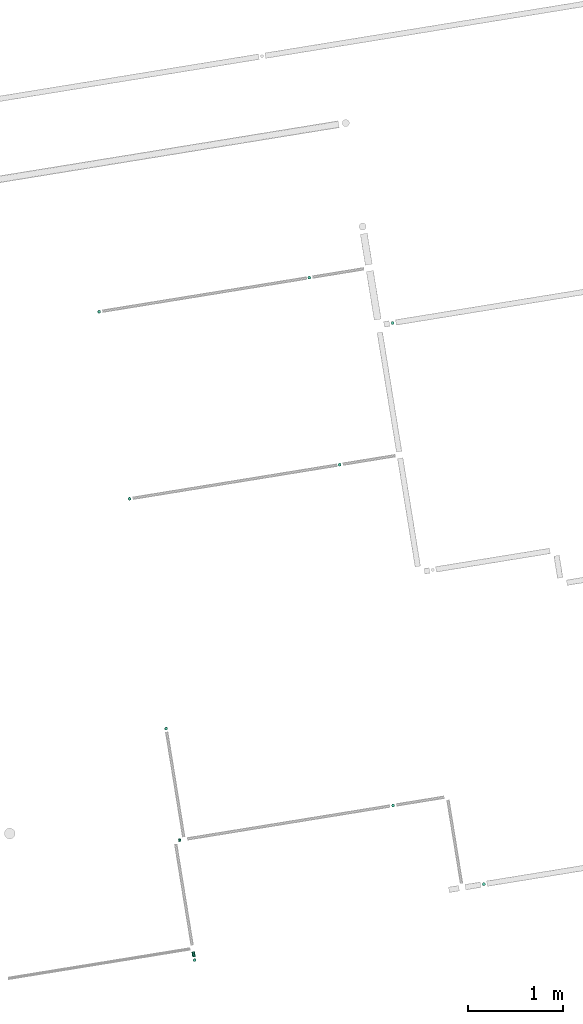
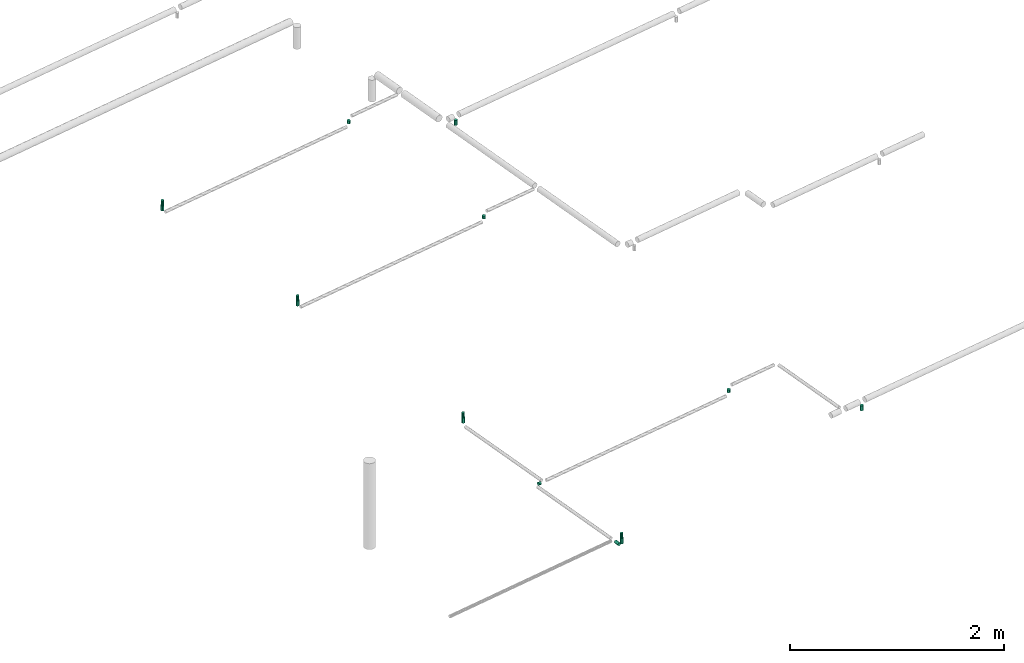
# One storey, part 4 of 10: 11 flow segments, 4 flow terminals.
"""IFC2X3 building model written with IfcOpenShell, lengths in millimetres."""

from ifc_helpers import new_model, entity, si_unit, converted_unit, derived_unit, direction, frame, frame_2d, origin, origin_with_axes, origin_2d_with_axis, place, context, subcontext, project, spatial, circle, extrude, source, transform, mapped, material, type_object, element, save


model = new_model("IFC2X3")

# Units and contexts
plan_context = context("Plan", 3, precision=1e-05, world=origin_with_axes())
model_context = context("Model", 3, precision=0.01, world=origin(), true_north=direction((6.12323399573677e-17, 1.0)))
body_context = subcontext(model_context, "Body", "Model", "MODEL_VIEW")
ifc_project = project(units=[converted_unit("PLANEANGLEUNIT", "DEGREE", entity("IfcPositiveLengthMeasure", 0.0174532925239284), si_unit("PLANEANGLEUNIT", "RADIAN"), dimensions=[0, 0, 0, 0, 0, 0, 0]), si_unit("AREAUNIT", "SQUARE_METRE"), si_unit("LENGTHUNIT", "METRE", prefix="MILLI"), si_unit("MASSUNIT", "GRAM", prefix="KILO"), si_unit("POWERUNIT", "WATT"), si_unit("PRESSUREUNIT", "PASCAL", prefix="KILO"), si_unit("FORCEUNIT", "NEWTON", prefix="KILO"), si_unit("ELECTRICVOLTAGEUNIT", "VOLT"), si_unit("ELECTRICCURRENTUNIT", "AMPERE"), si_unit("THERMODYNAMICTEMPERATUREUNIT", "DEGREE_CELSIUS"), si_unit("TIMEUNIT", "SECOND"), si_unit("VOLUMEUNIT", "CUBIC_METRE"), derived_unit("LINEARVELOCITYUNIT", [(si_unit("LENGTHUNIT", "METRE"), 1), (si_unit("TIMEUNIT", "SECOND"), -1)]), derived_unit("VOLUMETRICFLOWRATEUNIT", [(si_unit("VOLUMEUNIT", "CUBIC_METRE"), 1), (si_unit("TIMEUNIT", "SECOND"), -1)]), derived_unit("THERMALTRANSMITTANCEUNIT", [(si_unit("POWERUNIT", "WATT"), 1), (si_unit("THERMODYNAMICTEMPERATUREUNIT", "KELVIN"), -1), (si_unit("AREAUNIT", "SQUARE_METRE"), -1)]), derived_unit("SOUNDPRESSUREUNIT", [(si_unit("PRESSUREUNIT", "PASCAL"), 1)])], contexts=[model_context, plan_context])

# Site, building, storey
site_placement = place(None, frame((-0.00071070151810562, 0.00438415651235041, 0.0), z_axis=(0.0, 0.0, 1.0), x_axis=(-0.160236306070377, 0.987078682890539, 0.0)))
site = spatial("IfcSite", under=ifc_project, at=site_placement, Name="Default", CompositionType="ELEMENT")
building_placement = place(site_placement, origin_with_axes())
building = spatial("IfcBuilding", under=site, at=building_placement, CompositionType="ELEMENT")
storey_placement = place(building_placement, frame((0.0, 0.0, 55630.0), z_axis=(0.0, 0.0, 1.0), x_axis=(1.0, 0.0, 0.0)))
storey = spatial("IfcBuildingStorey", under=building, at=storey_placement, Name="Nivå E", CompositionType="ELEMENT", Elevation=55630.0)

# Flow terminals
ifc_material = material(Name="<Unnamed>")
fire_suppression_terminal_type = type_object("IfcFireSuppressionTerminalType", Name="UZ002T:Dyse/Spreder - UZ002T", PredefinedType="NOTDEFINED", material=ifc_material)
shared_shape = source(origin(), body_context, "Body", "SweptSolid", [
    extrude(circle(Radius=14.0, at=frame_2d((0.0, -2.26176240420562e-14), x_axis=(1.0, 0.0))), origin(), (0.0, 0.0, 1.0), 58.9999999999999),
])
for number, where, z_axis, x_axis in (
    (1, (767991.196595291, -502979.980498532, 2590.99999999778), (0.0, 0.0, 1.0), (1.0, 0.0, 0.0)),
    (2, (769991.196595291, -502979.980498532, 2590.99999999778), (0.0, 0.0, 1.0), (1.0, 0.0, 0.0)),
    (3, (763075.427938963, -502877.317550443, 2590.99999999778), (0.0, 0.0, 1.0), (1.0, 0.0, 0.0)),
    (4, (765535.427938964, -502972.480498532, 2590.99999999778), (0.0, 0.0, 1.0), (1.0, 0.0, 0.0)),
):
    element("IfcFlowTerminal", number, at=place(storey_placement, frame(where, z_axis=z_axis, x_axis=x_axis)), inside=storey, type_object=fire_suppression_terminal_type, material=ifc_material, Name="UZ002T:Dyse/Spreder - UZ002T", ObjectType="UZ002T:Dyse/Spreder - UZ002T", context=body_context, shape_type="MappedRepresentation", body=[
        mapped(shared_shape, transform((0.0, 0.0, 0.0), scale=1.0)),
    ])

# Flow segments
pipe_segment_type = type_object("IfcPipeSegmentType", Name="Pipe Types:Stålrør normaltykke", PredefinedType="NOTDEFINED")
flow_segment_1_placement = place(storey_placement, origin_with_axes())
element("IfcFlowSegment", 5, at=flow_segment_1_placement, inside=storey, type_object=pipe_segment_type, Name="Pipe Types:Stålrør normaltykke", ObjectType="Pipe Types:Stålrør normaltykke", context=body_context, shape_type="SweptSolid", body=[
    extrude(circle(Radius=16.8500004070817, at=origin_2d_with_axis()), frame((763377.619644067, -506018.477242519, 2496.95200000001)), (0.0, 0.0, 1.0), 57.7479999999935),
])
flow_segment_2_placement = place(storey_placement, origin_with_axes())
element("IfcFlowSegment", 6, at=flow_segment_2_placement, inside=storey, type_object=pipe_segment_type, Name="Pipe Types:Stålrør normaltykke", ObjectType="Pipe Types:Stålrør normaltykke", context=body_context, shape_type="SweptSolid", body=[
    extrude(circle(Radius=16.8500004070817, at=origin_2d_with_axis()), frame((769377.619644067, -506018.477242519, 2496.95200000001)), (0.0, 0.0, 1.0), 57.7479999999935),
])
flow_segment_3_placement = place(storey_placement, origin_with_axes())
element("IfcFlowSegment", 7, at=flow_segment_3_placement, inside=storey, type_object=pipe_segment_type, Name="Pipe Types:Stålrør normaltykke", ObjectType="Pipe Types:Stålrør normaltykke", context=body_context, shape_type="SweptSolid", body=[
    extrude(circle(Radius=16.8500004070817, at=origin_2d_with_axis()), frame((767991.196595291, -502979.980498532, 2533.8)), (0.0, 0.0, 1.0), 60.2479999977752),
])
flow_segment_4_placement = place(storey_placement, origin_with_axes())
element("IfcFlowSegment", 8, at=flow_segment_4_placement, inside=storey, type_object=pipe_segment_type, Name="Pipe Types:Stålrør normaltykke", ObjectType="Pipe Types:Stålrør normaltykke", context=body_context, shape_type="SweptSolid", body=[
    extrude(circle(Radius=16.8500004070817, at=origin_2d_with_axis()), frame((767991.196595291, -505226.059047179, 2533.8)), (0.0, 0.0, 1.0), 32.3999999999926),
])
flow_segment_5_placement = place(storey_placement, origin_with_axes())
element("IfcFlowSegment", 9, at=flow_segment_5_placement, inside=storey, type_object=pipe_segment_type, Name="Pipe Types:Stålrør normaltykke", ObjectType="Pipe Types:Stålrør normaltykke", context=body_context, shape_type="SweptSolid", body=[
    extrude(circle(Radius=16.8500004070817, at=origin_2d_with_axis()), frame((769991.196595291, -502979.980498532, 2533.8)), (0.0, 0.0, 1.0), 60.2479999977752),
])
flow_segment_6_placement = place(storey_placement, origin_with_axes())
element("IfcFlowSegment", 10, at=flow_segment_6_placement, inside=storey, type_object=pipe_segment_type, Name="Pipe Types:Stålrør normaltykke", ObjectType="Pipe Types:Stålrør normaltykke", context=body_context, shape_type="SweptSolid", body=[
    extrude(circle(Radius=16.8500004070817, at=origin_2d_with_axis()), frame((769991.196595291, -505226.737013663, 2533.8)), (0.0, 0.0, 1.0), 32.3999999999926),
])
flow_segment_7_placement = place(storey_placement, origin_with_axes())
element("IfcFlowSegment", 11, at=flow_segment_7_placement, inside=storey, type_object=pipe_segment_type, Name="Pipe Types:Stålrør normaltykke", ObjectType="Pipe Types:Stålrør normaltykke", context=body_context, shape_type="SweptSolid", body=[
    extrude(circle(Radius=16.8500004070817, at=origin_2d_with_axis()), frame((763075.427938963, -502877.317550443, 2533.80000000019)), (0.0, 0.0, 1.0), 60.2479999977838),
])
flow_segment_8_placement = place(storey_placement, origin_with_axes())
element("IfcFlowSegment", 12, at=flow_segment_8_placement, inside=storey, type_object=pipe_segment_type, Name="Pipe Types:Stålrør normaltykke", ObjectType="Pipe Types:Stålrør normaltykke", context=body_context, shape_type="SweptSolid", body=[
    extrude(circle(Radius=16.8500004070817, at=origin_2d_with_axis()), frame((765535.427938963, -502972.480498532, 2533.80000000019)), (0.0, 0.0, 1.0), 60.2479999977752),
])
flow_segment_9_placement = place(storey_placement, origin_with_axes())
element("IfcFlowSegment", 13, at=flow_segment_9_placement, inside=storey, type_object=pipe_segment_type, Name="Pipe Types:Stålrør normaltykke", ObjectType="Pipe Types:Stålrør normaltykke", context=body_context, shape_type="SweptSolid", body=[
    extrude(circle(Radius=16.8500004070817, at=frame_2d((0.0, -8.66293703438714e-12), x_axis=(1.0, 0.0))), frame((763109.227938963, -502877.317550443, 2500.0), z_axis=(1.0, 0.0, 0.0), x_axis=(0.0, 1.0, 0.0)), (0.0, 0.0, 1.0), 57.640185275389),
])
flow_segment_10_placement = place(storey_placement, origin_with_axes())
element("IfcFlowSegment", 14, at=flow_segment_10_placement, inside=storey, type_object=pipe_segment_type, Name="Pipe Types:Stålrør normaltykke", ObjectType="Pipe Types:Stålrør normaltykke", context=body_context, shape_type="SweptSolid", body=[
    extrude(circle(Radius=16.8500004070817, at=origin_2d_with_axis()), frame((764350.752549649, -505207.671414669, 2533.80000000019), z_axis=(0.0, 0.0, 1.0), x_axis=(-1.0, 0.0, 0.0)), (0.0, 0.0, 1.0), 32.3999999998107),
])
flow_segment_11_placement = place(storey_placement, origin_with_axes())
element("IfcFlowSegment", 15, at=flow_segment_11_placement, inside=storey, type_object=pipe_segment_type, Name="Pipe Types:Stålrør normaltykke", ObjectType="Pipe Types:Stålrør normaltykke", context=body_context, shape_type="SweptSolid", body=[
    extrude(circle(Radius=16.8500004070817, at=frame_2d((0.0, -8.66293703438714e-12), x_axis=(1.0, 0.0))), frame((764350.752549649, -502938.680498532, 2500.0), z_axis=(0.0, 1.0, 0.0), x_axis=(-1.0, 0.0, 0.0)), (0.0, 0.0, 1.0), 27.562948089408),
])

save(model, "model.ifc")
